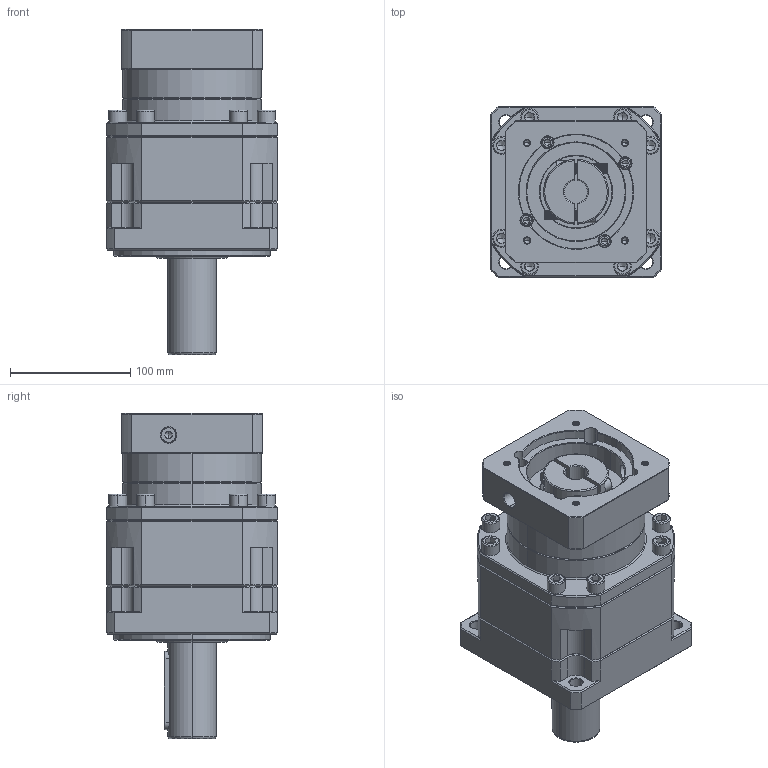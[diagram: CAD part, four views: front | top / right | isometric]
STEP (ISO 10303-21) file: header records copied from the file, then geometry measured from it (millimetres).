
FILE_DESCRIPTION (( 'STEP AP214' ), '1' );
FILE_NAME ('ZB142A-D40-L2-P2-19-95-115-M6.step', '2023-09-02T02:49:24', ( '' ), ( '' ), 'SwSTEP 2.0', 'SolidWorks 2016', '' );
FILE_SCHEMA (( 'AUTOMOTIVE_DESIGN' ));
Length unit declared in the file: millimetre
Products named in the file (1): ZB142A-D40-L2-P2-19-95-115-M6
Bounding box: 142 x 142 x 270.7 mm (x, y, z)
Volume: 2862539.4 mm3; surface area: 231151.4 mm2
Topology: 6 solids, 6 shells, 2559 faces, 6714 edges, 4277 vertices
Faces by surface type: plane 1205, cylinder 489, bspline 425, cone 402, torus 38
Entity records: 135730 total; most frequent: CARTESIAN_POINT 47858, ORIENTED_EDGE 13320, DIRECTION 10915, EDGE_CURVE 6660, VERTEX_POINT 4277, VECTOR 4215, LINE 4215, AXIS2_PLACEMENT_3D 3350
